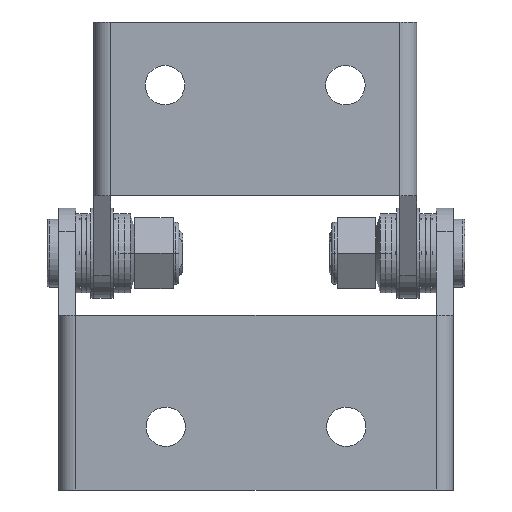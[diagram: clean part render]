
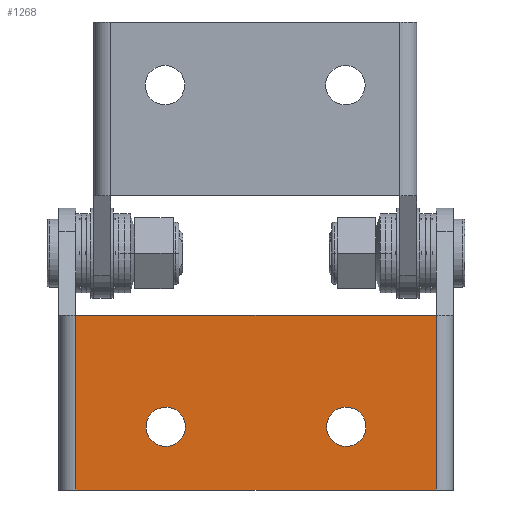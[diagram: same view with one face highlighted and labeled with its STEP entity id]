
A CAD part, front view. The second image highlights one B-rep face of the part: STEP entity #1268.
In plain terms, the highlighted planar face has unit normal (0, -1, 0).
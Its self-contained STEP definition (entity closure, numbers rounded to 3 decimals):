
#853=CARTESIAN_POINT('',(-16.,0.,4.3));
#854=DIRECTION('',(0.,-1.,0.));
#855=DIRECTION('',(1.,0.,0.));
#856=AXIS2_PLACEMENT_3D('',#853,#854,#855);
#858=CARTESIAN_POINT('',(-16.,0.,4.3));
#859=DIRECTION('',(0.,-1.,0.));
#860=DIRECTION('',(-1.,0.,0.));
#861=AXIS2_PLACEMENT_3D('',#858,#859,#860);
#863=CARTESIAN_POINT('',(16.,0.,4.3));
#864=DIRECTION('',(0.,-1.,0.));
#865=DIRECTION('',(1.,0.,0.));
#866=AXIS2_PLACEMENT_3D('',#863,#864,#865);
#868=CARTESIAN_POINT('',(16.,0.,4.3));
#869=DIRECTION('',(0.,-1.,0.));
#870=DIRECTION('',(-1.,0.,0.));
#871=AXIS2_PLACEMENT_3D('',#868,#869,#870);
#873=DIRECTION('',(0.,0.,1.));
#874=VECTOR('',#873,31.);
#875=CARTESIAN_POINT('',(32.,0.,-15.5));
#876=LINE('',#875,#874);
#877=DIRECTION('',(-1.,0.,0.));
#878=VECTOR('',#877,64.);
#879=CARTESIAN_POINT('',(32.,0.,-15.5));
#880=LINE('',#879,#878);
#881=DIRECTION('',(0.,0.,-1.));
#882=VECTOR('',#881,31.);
#883=CARTESIAN_POINT('',(-32.,0.,15.5));
#884=LINE('',#883,#882);
#885=DIRECTION('',(1.,0.,0.));
#886=VECTOR('',#885,64.);
#887=CARTESIAN_POINT('',(-32.,0.,15.5));
#888=LINE('',#887,#886);
#1153=CARTESIAN_POINT('',(-12.5,0.,4.3));
#1154=CARTESIAN_POINT('',(-19.5,0.,4.3));
#1155=VERTEX_POINT('',#1153);
#1156=VERTEX_POINT('',#1154);
#1157=CARTESIAN_POINT('',(19.5,0.,4.3));
#1158=CARTESIAN_POINT('',(12.5,0.,4.3));
#1159=VERTEX_POINT('',#1157);
#1160=VERTEX_POINT('',#1158);
#1209=CARTESIAN_POINT('',(32.,0.,15.5));
#1211=VERTEX_POINT('',#1209);
#1215=CARTESIAN_POINT('',(32.,0.,-15.5));
#1216=VERTEX_POINT('',#1215);
#1217=CARTESIAN_POINT('',(-32.,0.,-15.5));
#1219=VERTEX_POINT('',#1217);
#1223=CARTESIAN_POINT('',(-32.,0.,15.5));
#1224=VERTEX_POINT('',#1223);
#1241=CARTESIAN_POINT('',(0.,0.,0.));
#1242=DIRECTION('',(0.,1.,0.));
#1243=DIRECTION('',(1.,0.,0.));
#1244=AXIS2_PLACEMENT_3D('',#1241,#1242,#1243);
#1245=PLANE('',#1244);
#1247=ORIENTED_EDGE('',*,*,#1246,.F.);
#1249=ORIENTED_EDGE('',*,*,#1248,.T.);
#1251=ORIENTED_EDGE('',*,*,#1250,.F.);
#1253=ORIENTED_EDGE('',*,*,#1252,.T.);
#1254=EDGE_LOOP('',(#1247,#1249,#1251,#1253));
#1255=FACE_OUTER_BOUND('',#1254,.F.);
#1257=ORIENTED_EDGE('',*,*,#1256,.T.);
#1259=ORIENTED_EDGE('',*,*,#1258,.T.);
#1260=EDGE_LOOP('',(#1257,#1259));
#1261=FACE_BOUND('',#1260,.F.);
#1263=ORIENTED_EDGE('',*,*,#1262,.T.);
#1265=ORIENTED_EDGE('',*,*,#1264,.T.);
#1266=EDGE_LOOP('',(#1263,#1265));
#1267=FACE_BOUND('',#1266,.F.);
#1268=ADVANCED_FACE('',(#1255,#1261,#1267),#1245,.F.);
#857=CIRCLE('',#856,3.5);
#862=CIRCLE('',#861,3.5);
#867=CIRCLE('',#866,3.5);
#872=CIRCLE('',#871,3.5);
#1246=EDGE_CURVE('',#1216,#1211,#876,.T.);
#1248=EDGE_CURVE('',#1216,#1219,#880,.T.);
#1250=EDGE_CURVE('',#1224,#1219,#884,.T.);
#1252=EDGE_CURVE('',#1224,#1211,#888,.T.);
#1256=EDGE_CURVE('',#1159,#1160,#867,.T.);
#1258=EDGE_CURVE('',#1160,#1159,#872,.T.);
#1262=EDGE_CURVE('',#1155,#1156,#857,.T.);
#1264=EDGE_CURVE('',#1156,#1155,#862,.T.);
